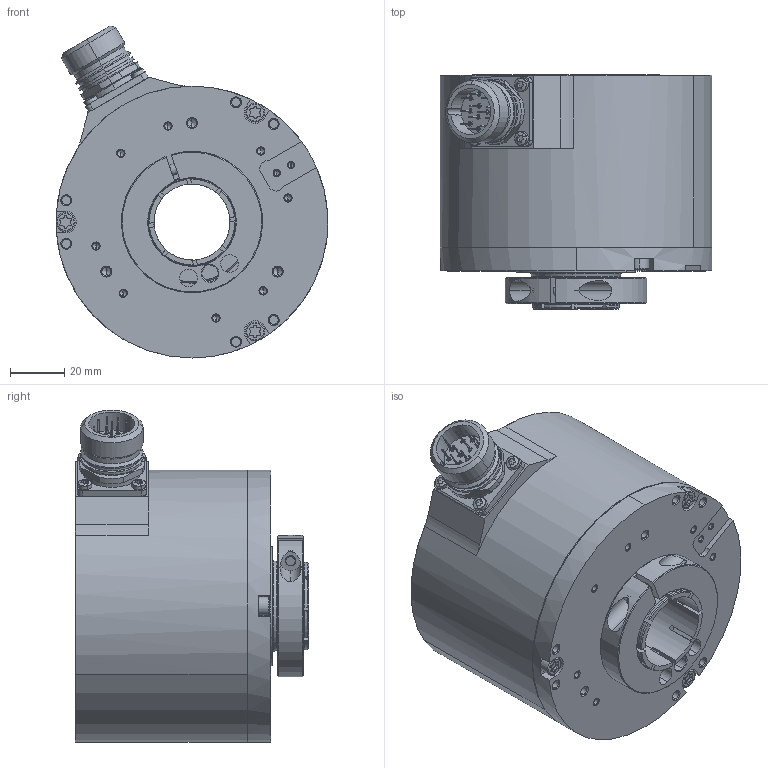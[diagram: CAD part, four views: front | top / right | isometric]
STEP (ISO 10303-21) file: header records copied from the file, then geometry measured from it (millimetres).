
FILE_DESCRIPTION (( 'STEP AP203' ), '1' );
FILE_NAME ('8.H120.17X4.XXXX.STEP', '2012-07-25T13:31:21', ( 'LauferA' ), ( 'Microsoft' ), 'SwSTEP 2.0', 'SolidWorks 2012', '' );
FILE_SCHEMA (( 'CONFIG_CONTROL_DESIGN' ));
Length unit declared in the file: millimetre
Products named in the file (1): 8.H120.17X4.XXXX
Bounding box: 100 x 86 x 122.12 mm (x, y, z)
Volume: 259066.5 mm3; surface area: 131424.4 mm2
Topology: 30 solids, 32 shells, 1262 faces, 2903 edges, 1752 vertices
Faces by surface type: cylinder 580, cone 293, plane 285, torus 72, sphere 32
Entity records: 35791 total; most frequent: DIRECTION 6879, CARTESIAN_POINT 6245, ORIENTED_EDGE 5642, AXIS2_PLACEMENT_3D 2857, EDGE_CURVE 2821, VERTEX_POINT 1752, CIRCLE 1594, EDGE_LOOP 1471
